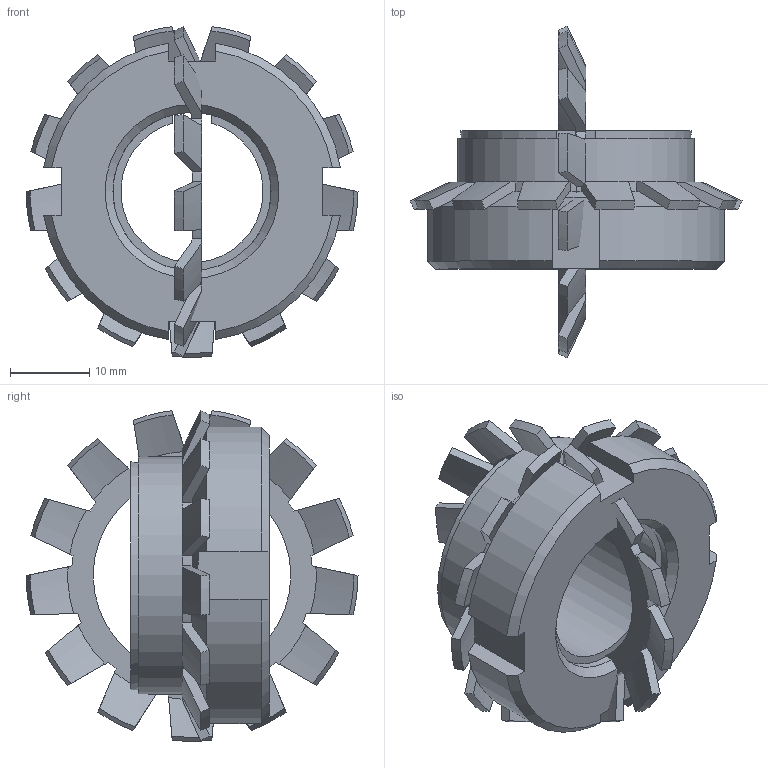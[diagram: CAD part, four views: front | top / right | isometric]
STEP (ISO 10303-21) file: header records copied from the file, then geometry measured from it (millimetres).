
FILE_DESCRIPTION( ( 'Unknown' ), '1' );
FILE_NAME( 'C:/Dokumente und Einstellungen/Sven/Desktop/homepage/cad - homepage/KBS51/KBS 51 - 18 x 30.stp', 'Unknown', ( 'Unknown' ), ( 'Unknown' ), 'XStep 1.0', 'Unknown', ' ' );
FILE_SCHEMA( ( 'automotive_design' ) );
Length unit declared in the file: millimetre
Products named in the file (3): Assem1; KBS 51 - 18 x 30; 08570053_locking_plate_din_5406_mb_5_2_14a
Bounding box: 42 x 42 x 41.83 mm (x, y, z)
Volume: 22807.8 mm3; surface area: 12692 mm2
Topology: 4 solids, 4 shells, 240 faces, 688 edges, 456 vertices
Faces by surface type: plane 104, cone 94, cylinder 42
Full cylindrical faces by diameter (mm): 20 x2, 30 x2
Entity records: 4268 total; most frequent: CARTESIAN_POINT 879, ORIENTED_EDGE 676, DIRECTION 640, EDGE_CURVE 338, AXIS2_PLACEMENT_3D 253, VERTEX_POINT 226, LINE 134, VECTOR 134
